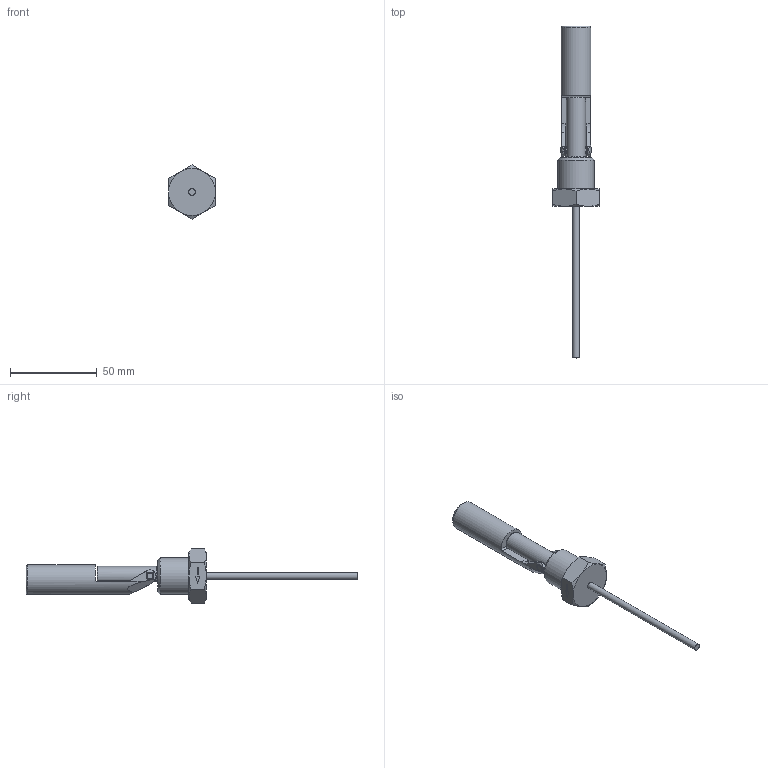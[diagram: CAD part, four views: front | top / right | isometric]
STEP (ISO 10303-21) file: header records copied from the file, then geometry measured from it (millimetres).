
FILE_DESCRIPTION(/* description */ ('Katalogmodell Elobau'),/* implementation_level */ '2;1');
FILE_NAME(/* name */ '207KS__N_A.stp',/* time_stamp */ '2014-10-01T14:47:02+02:00',/* author */ ('Elobau GmbH & Co. KG'),/* organization */ ('Elobau GmbH & Co. KG'),/* preprocessor_version */ 'ST-DEVELOPER v15',/* originating_system */ 'SIEMENS PLM Software NX 8.5',/* authorisation */ '');
FILE_SCHEMA (('AUTOMOTIVE_DESIGN { 1 0 10303 214 3 1 1 1 }'));
Length unit declared in the file: millimetre
Products named in the file (1): 207KS..N_A
Bounding box: 27 x 191.5 x 31.18 mm (x, y, z)
Volume: 27538.5 mm3; surface area: 9574.6 mm2
Topology: 2 solids, 2 shells, 100 faces, 257 edges, 166 vertices
Faces by surface type: plane 56, cylinder 22, cone 17, torus 4, sphere 1
Full cylindrical faces by diameter (mm): 3.8 x3, 17 x1, 21.223 x1
Entity records: 3865 total; most frequent: CARTESIAN_POINT 842, ORIENTED_EDGE 484, DIRECTION 448, EDGE_CURVE 242, VERTEX_POINT 164, AXIS2_PLACEMENT_3D 162, LINE 124, VECTOR 124
